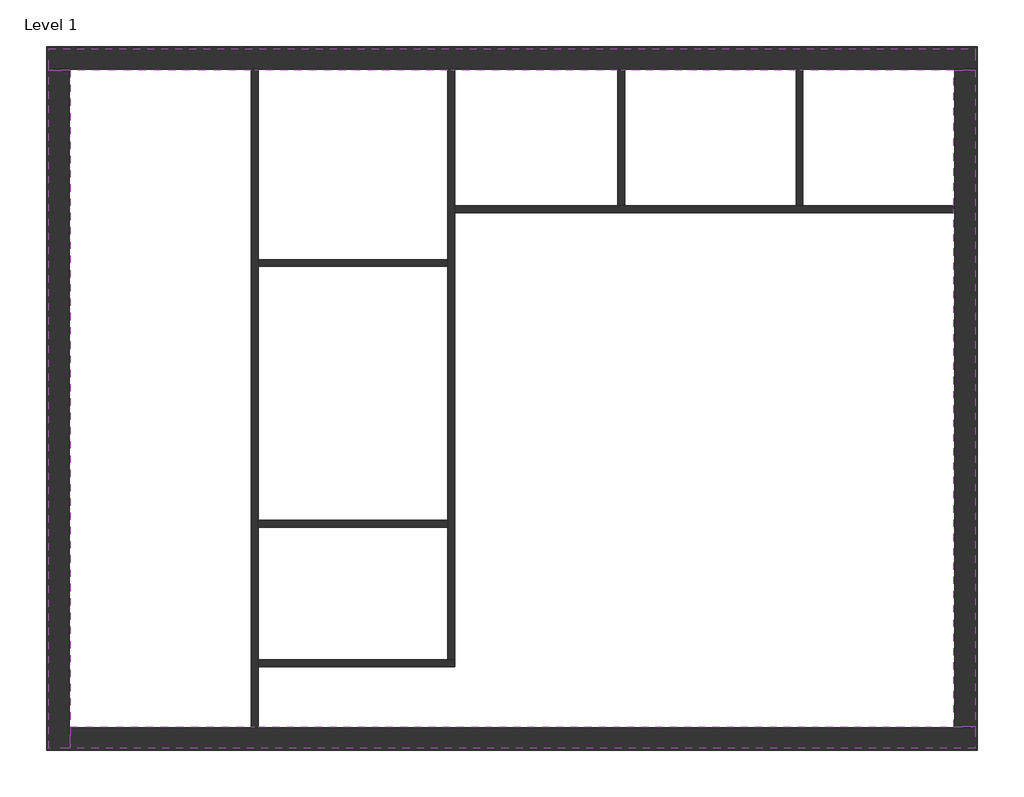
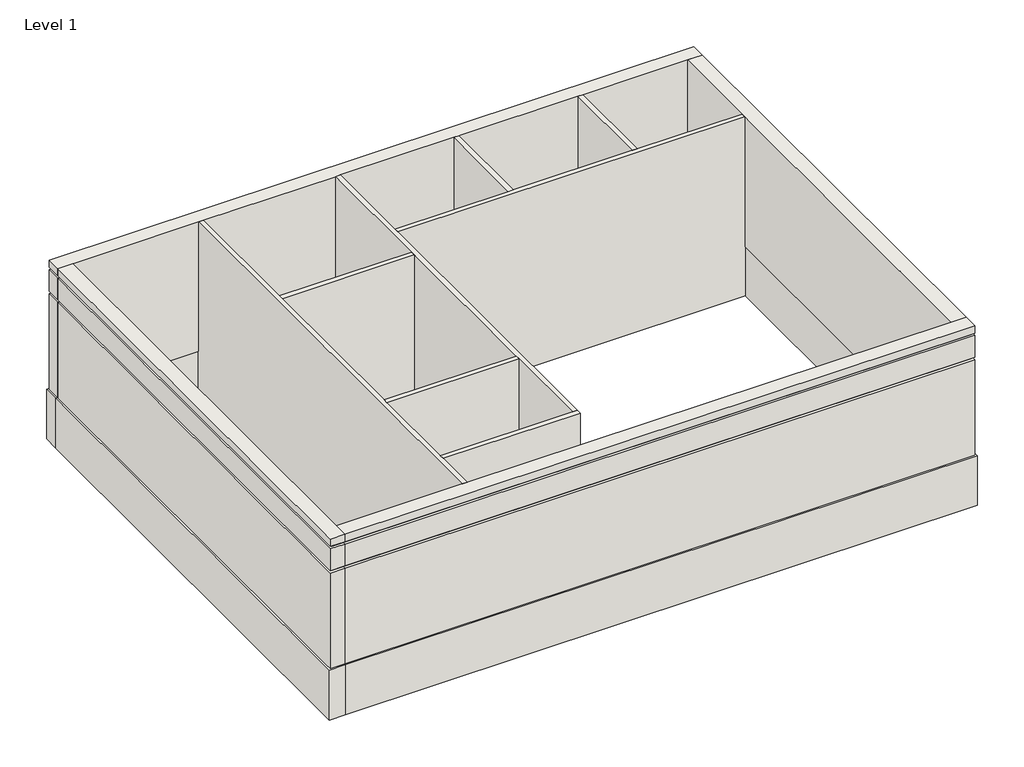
# One storey: 16 walls.
"""IFC4 building model written with IfcOpenShell, lengths in millimetres."""

from ifc_helpers import new_model, si_unit, frame, origin, origin_with_axes, place, context, project, spatial, polyline, outline, extrude, faceted_brep, element, save

model = new_model("IFC4")

# Units and contexts
model_context = context("Model", 3, world=origin())
ifc_project = project(units=[si_unit("LENGTHUNIT", "METRE", prefix="MILLI")], contexts=[model_context])

# Site, building, storey
site = spatial("IfcSite", under=ifc_project)
building = spatial("IfcBuilding", under=site)
storey = spatial("IfcBuildingStorey", under=building, Name="Level 1", Elevation=0.0)

# Walls
placement = place(None, origin())
element("IfcWall", 1, ObjectType="Exterior - Block on Mtl. Stud", at=placement, inside=storey, context=model_context, shape_type="Brep", body=[
    faceted_brep([(-1649.2150684, 3407.407772, 0.0), (-1189.2150684, 3407.407772, 0.0), (2473.5349316, 3407.407772, 0.0), (2612.0349316, 3407.407772, 0.0), (6435.5349316, 3407.407772, 0.0), (6574.0349316, 3407.407772, 0.0), (9857.7849316, 3407.407772, 0.0), (9996.2849316, 3407.407772, 0.0), (13446.5349316, 3407.407772, 0.0), (13585.0349316, 3407.407772, 0.0), (16638.7849316, 3407.407772, 0.0), (17098.7849316, 3407.407772, 0.0), (17098.7849316, 3407.407772, 1524.0), (16638.7849316, 3407.407772, 1524.0), (13585.0349316, 3407.407772, 1524.0), (13446.5349316, 3407.407772, 1524.0), (9996.2849316, 3407.407772, 1524.0), (9857.7849316, 3407.407772, 1524.0), (6574.0349316, 3407.407772, 1524.0), (6435.5349316, 3407.407772, 1524.0), (2612.0349316, 3407.407772, 1524.0), (2473.5349316, 3407.407772, 1524.0), (-1189.2150684, 3407.407772, 1524.0), (-1649.2150684, 3407.407772, 1524.0), (-1649.2150684, 3867.407772, 0.0), (-1649.2150684, 3867.407772, 1524.0), (17098.7849316, 3867.407772, 1524.0), (17098.7849316, 3867.407772, 0.0)], [[[0, 1, 2, 3, 4, 5, 6, 7, 8, 9, 10, 11, 12, 13, 14, 15, 16, 17, 18, 19, 20, 21, 22, 23]], [[24, 25, 26, 27]], [[11, 10, 9, 8, 7, 6, 5, 4, 3, 2, 1, 0, 24, 27]], [[23, 22, 21, 20, 19, 18, 17, 16, 15, 14, 13, 12, 26, 25]], [[0, 23, 25, 24]], [[12, 11, 27, 26]]]),
])
element("IfcWall", 2, ObjectType="Exterior - Block on Mtl. Stud", at=placement, inside=storey, context=model_context, shape_type="Brep", body=[
    faceted_brep([(-1189.2150684, -10308.592228, 0.0), (-1189.2150684, -9848.592228, 0.0), (-1189.2150684, 3407.407772, 0.0), (-1189.2150684, 3407.407772, 1524.0), (-1189.2150684, -9848.592228, 1524.0), (-1189.2150684, -10308.592228, 1524.0), (-1649.2150684, -10308.592228, 0.0), (-1649.2150684, -10308.592228, 1524.0), (-1649.2150684, 3407.407772, 1524.0), (-1649.2150684, 3407.407772, 0.0)], [[[0, 1, 2, 3, 4, 5]], [[6, 7, 8, 9]], [[2, 1, 0, 6, 9]], [[5, 4, 3, 8, 7]], [[0, 5, 7, 6]], [[3, 2, 9, 8]]]),
])
element("IfcWall", 3, ObjectType="Exterior - Block on Mtl. Stud", at=placement, inside=storey, context=model_context, shape_type="Brep", body=[
    faceted_brep([(17098.7849316, -9848.592228, 0.0), (16638.7849316, -9848.592228, 0.0), (2612.0349316, -9848.592228, 0.0), (2473.5349316, -9848.592228, 0.0), (-1189.2150684, -9848.592228, 0.0), (-1189.2150684, -9848.592228, 1524.0), (2473.5349316, -9848.592228, 1524.0), (2612.0349316, -9848.592228, 1524.0), (16638.7849316, -9848.592228, 1524.0), (17098.7849316, -9848.592228, 1524.0), (17098.7849316, -10308.592228, 0.0), (17098.7849316, -10308.592228, 1524.0), (-1189.2150684, -10308.592228, 1524.0), (-1189.2150684, -10308.592228, 0.0)], [[[0, 1, 2, 3, 4, 5, 6, 7, 8, 9]], [[10, 11, 12, 13]], [[4, 3, 2, 1, 0, 10, 13]], [[9, 8, 7, 6, 5, 12, 11]], [[0, 9, 11, 10]], [[5, 4, 13, 12]]]),
])
element("IfcWall", 4, ObjectType="Exterior - Block on Mtl. Stud", at=placement, inside=storey, context=model_context, shape_type="Brep", body=[
    faceted_brep([(16638.7849316, 3407.407772, 0.0), (16638.7849316, 658.657772, 0.0), (16638.7849316, 520.157772, 0.0), (16638.7849316, -9848.592228, 0.0), (16638.7849316, -9848.592228, 1524.0), (16638.7849316, 520.157772, 1524.0), (16638.7849316, 658.657772, 1524.0), (16638.7849316, 3407.407772, 1524.0), (17098.7849316, 3407.407772, 0.0), (17098.7849316, 3407.407772, 1524.0), (17098.7849316, -9848.592228, 1524.0), (17098.7849316, -9848.592228, 0.0)], [[[0, 1, 2, 3, 4, 5, 6, 7]], [[8, 9, 10, 11]], [[3, 2, 1, 0, 8, 11]], [[7, 6, 5, 4, 10, 9]], [[0, 7, 9, 8]], [[4, 3, 11, 10]]]),
])
element("IfcWall", 5, ObjectType="Exterior - Render on Brick on Block", at=placement, inside=storey, context=model_context, shape_type="Brep", body=[
    faceted_brep([(-1600.2150684, 3389.407772, 1524.0), (-1171.2150684, 3389.407772, 1524.0), (2473.5349316, 3389.407772, 1524.0), (2612.0349316, 3389.407772, 1524.0), (6435.5349316, 3389.407772, 1524.0), (6574.0349316, 3389.407772, 1524.0), (9857.7849316, 3389.407772, 1524.0), (9996.2849316, 3389.407772, 1524.0), (13446.5349316, 3389.407772, 1524.0), (13585.0349316, 3389.407772, 1524.0), (16620.7849316, 3389.407772, 1524.0), (17049.7849316, 3389.407772, 1524.0), (17049.7849316, 3389.407772, 4449.0), (16974.7849316, 3389.407772, 4449.0), (16974.7849316, 3389.407772, 4524.0), (17049.7849316, 3389.407772, 4524.0), (17049.7849316, 3389.407772, 5186.0), (16974.7849316, 3389.407772, 5186.0), (16974.7849316, 3389.407772, 5261.0), (17049.7849316, 3389.407772, 5261.0), (17049.7849316, 3389.407772, 5486.0), (16620.7849316, 3389.407772, 5486.0), (13585.0349316, 3389.407772, 5486.0), (13446.5349316, 3389.407772, 5486.0), (9996.2849316, 3389.407772, 5486.0), (9857.7849316, 3389.407772, 5486.0), (6574.0349316, 3389.407772, 5486.0), (6435.5349316, 3389.407772, 5486.0), (2612.0349316, 3389.407772, 5486.0), (2473.5349316, 3389.407772, 5486.0), (-1171.2150684, 3389.407772, 5486.0), (-1600.2150684, 3389.407772, 5486.0), (-1600.2150684, 3389.407772, 5261.0), (-1525.2150684, 3389.407772, 5261.0), (-1525.2150684, 3389.407772, 5186.0), (-1600.2150684, 3389.407772, 5186.0), (-1600.2150684, 3389.407772, 4524.0), (-1525.2150684, 3389.407772, 4524.0), (-1525.2150684, 3389.407772, 4449.0), (-1600.2150684, 3389.407772, 4449.0), (-1600.2150684, 3818.407772, 5486.0), (17049.7849316, 3818.407772, 5486.0), (17049.7849316, 3818.407772, 5261.0), (-1600.2150684, 3818.407772, 5261.0), (17049.7849316, 3818.407772, 1524.0), (-1600.2150684, 3818.407772, 1524.0), (-1600.2150684, 3818.407772, 4449.0), (17049.7849316, 3818.407772, 4449.0), (17049.7849316, 3818.407772, 4524.0), (-1600.2150684, 3818.407772, 4524.0), (-1600.2150684, 3818.407772, 5186.0), (17049.7849316, 3818.407772, 5186.0), (-1600.2150684, 3793.407772, 1524.0), (17049.7849316, 3793.407772, 1524.0), (-1525.2150684, 3743.407772, 4449.0), (-1525.2150684, 3743.407772, 4524.0), (16974.7849316, 3743.407772, 4524.0), (16974.7849316, 3743.407772, 4449.0), (-1525.2150684, 3743.407772, 5261.0), (16974.7849316, 3743.407772, 5261.0), (16974.7849316, 3743.407772, 5186.0), (-1525.2150684, 3743.407772, 5186.0)], [[[0, 1, 2, 3, 4, 5, 6, 7, 8, 9, 10, 11, 12, 13, 14, 15, 16, 17, 18, 19, 20, 21, 22, 23, 24, 25, 26, 27, 28, 29, 30, 31, 32, 33, 34, 35, 36, 37, 38, 39]], [[40, 41, 42, 43]], [[44, 45, 46, 47]], [[48, 49, 50, 51]], [[31, 30, 29, 28, 27, 26, 25, 24, 23, 22, 21, 20, 41, 40]], [[11, 10, 9, 8, 7, 6, 5, 4, 3, 2, 1, 0, 52, 53]], [[54, 55, 56, 57]], [[58, 59, 60, 61]], [[31, 40, 43, 32]], [[52, 0, 39, 46, 45]], [[49, 36, 35, 50]], [[41, 20, 19, 42]], [[11, 53, 44, 47, 12]], [[15, 48, 51, 16]], [[45, 44, 53, 52]], [[56, 55, 37, 36, 49, 48, 15, 14]], [[54, 57, 13, 12, 47, 46, 39, 38]], [[55, 54, 38, 37]], [[57, 56, 14, 13]], [[59, 58, 33, 32, 43, 42, 19, 18]], [[61, 60, 17, 16, 51, 50, 35, 34]], [[58, 61, 34, 33]], [[60, 59, 18, 17]]]),
])
element("IfcWall", 6, ObjectType="Exterior - Render on Brick on Block", at=placement, inside=storey, context=model_context, shape_type="Brep", body=[
    faceted_brep([(-1171.2150684, -10259.592228, 1524.0), (-1171.2150684, -9830.592228, 1524.0), (-1171.2150684, 3389.407772, 1524.0), (-1171.2150684, 3389.407772, 5486.0), (-1171.2150684, -9830.592228, 5486.0), (-1171.2150684, -10259.592228, 5486.0), (-1171.2150684, -10259.592228, 5261.0), (-1171.2150684, -10184.592228, 5261.0), (-1171.2150684, -10184.592228, 5186.0), (-1171.2150684, -10259.592228, 5186.0), (-1171.2150684, -10259.592228, 4524.0), (-1171.2150684, -10184.592228, 4524.0), (-1171.2150684, -10184.592228, 4449.0), (-1171.2150684, -10259.592228, 4449.0), (-1600.2150684, -10259.592228, 5486.0), (-1600.2150684, 3389.407772, 5486.0), (-1600.2150684, 3389.407772, 5261.0), (-1600.2150684, -10259.592228, 5261.0), (-1600.2150684, 3389.407772, 1524.0), (-1600.2150684, -10259.592228, 1524.0), (-1600.2150684, -10259.592228, 4449.0), (-1600.2150684, 3389.407772, 4449.0), (-1600.2150684, 3389.407772, 4524.0), (-1600.2150684, -10259.592228, 4524.0), (-1600.2150684, -10259.592228, 5186.0), (-1600.2150684, 3389.407772, 5186.0), (-1575.2150684, -10259.592228, 1524.0), (-1575.2150684, 3389.407772, 1524.0), (-1525.2150684, -10184.592228, 4449.0), (-1525.2150684, -10184.592228, 4524.0), (-1525.2150684, 3389.407772, 4524.0), (-1525.2150684, 3389.407772, 4449.0), (-1525.2150684, -10184.592228, 5186.0), (-1525.2150684, -10184.592228, 5261.0), (-1525.2150684, 3389.407772, 5261.0), (-1525.2150684, 3389.407772, 5186.0)], [[[0, 1, 2, 3, 4, 5, 6, 7, 8, 9, 10, 11, 12, 13]], [[14, 15, 16, 17]], [[18, 19, 20, 21]], [[22, 23, 24, 25]], [[5, 4, 3, 15, 14]], [[2, 1, 0, 26, 27]], [[28, 29, 30, 31]], [[32, 33, 34, 35]], [[5, 14, 17, 6]], [[26, 0, 13, 20, 19]], [[23, 10, 9, 24]], [[3, 2, 27, 18, 21, 31, 30, 22, 25, 35, 34, 16, 15]], [[19, 18, 27, 26]], [[30, 29, 11, 10, 23, 22]], [[28, 31, 21, 20, 13, 12]], [[29, 28, 12, 11]], [[34, 33, 7, 6, 17, 16]], [[32, 35, 25, 24, 9, 8]], [[33, 32, 8, 7]]]),
])
element("IfcWall", 7, ObjectType="Exterior - Render on Brick on Block", at=placement, inside=storey, context=model_context, shape_type="Brep", body=[
    faceted_brep([(17049.7849316, -9830.592228, 1524.0), (16620.7849316, -9830.592228, 1524.0), (2612.0349316, -9830.592228, 1524.0), (2473.5349316, -9830.592228, 1524.0), (-1171.2150684, -9830.592228, 1524.0), (-1171.2150684, -9830.592228, 5486.0), (2473.5349316, -9830.592228, 5486.0), (2612.0349316, -9830.592228, 5486.0), (16620.7849316, -9830.592228, 5486.0), (17049.7849316, -9830.592228, 5486.0), (17049.7849316, -9830.592228, 5261.0), (16974.7849316, -9830.592228, 5261.0), (16974.7849316, -9830.592228, 5186.0), (17049.7849316, -9830.592228, 5186.0), (17049.7849316, -9830.592228, 4524.0), (16974.7849316, -9830.592228, 4524.0), (16974.7849316, -9830.592228, 4449.0), (17049.7849316, -9830.592228, 4449.0), (17049.7849316, -10259.592228, 5486.0), (-1171.2150684, -10259.592228, 5486.0), (-1171.2150684, -10259.592228, 5261.0), (17049.7849316, -10259.592228, 5261.0), (-1171.2150684, -10259.592228, 1524.0), (17049.7849316, -10259.592228, 1524.0), (17049.7849316, -10259.592228, 4449.0), (-1171.2150684, -10259.592228, 4449.0), (-1171.2150684, -10259.592228, 4524.0), (17049.7849316, -10259.592228, 4524.0), (17049.7849316, -10259.592228, 5186.0), (-1171.2150684, -10259.592228, 5186.0), (17049.7849316, -10234.592228, 1524.0), (-1171.2150684, -10234.592228, 1524.0), (16974.7849316, -10184.592228, 4449.0), (16974.7849316, -10184.592228, 4524.0), (-1171.2150684, -10184.592228, 4524.0), (-1171.2150684, -10184.592228, 4449.0), (16974.7849316, -10184.592228, 5186.0), (16974.7849316, -10184.592228, 5261.0), (-1171.2150684, -10184.592228, 5261.0), (-1171.2150684, -10184.592228, 5186.0)], [[[0, 1, 2, 3, 4, 5, 6, 7, 8, 9, 10, 11, 12, 13, 14, 15, 16, 17]], [[18, 19, 20, 21]], [[22, 23, 24, 25]], [[26, 27, 28, 29]], [[9, 8, 7, 6, 5, 19, 18]], [[4, 3, 2, 1, 0, 30, 31]], [[32, 33, 34, 35]], [[36, 37, 38, 39]], [[9, 18, 21, 10]], [[30, 0, 17, 24, 23]], [[27, 14, 13, 28]], [[5, 4, 31, 22, 25, 35, 34, 26, 29, 39, 38, 20, 19]], [[23, 22, 31, 30]], [[34, 33, 15, 14, 27, 26]], [[32, 35, 25, 24, 17, 16]], [[33, 32, 16, 15]], [[38, 37, 11, 10, 21, 20]], [[36, 39, 29, 28, 13, 12]], [[37, 36, 12, 11]]]),
])
element("IfcWall", 8, ObjectType="Exterior - Render on Brick on Block", at=placement, inside=storey, context=model_context, shape_type="Brep", body=[
    faceted_brep([(16620.7849316, 3389.407772, 1524.0), (16620.7849316, 658.657772, 1524.0), (16620.7849316, 520.157772, 1524.0), (16620.7849316, -9830.592228, 1524.0), (16620.7849316, -9830.592228, 5486.0), (16620.7849316, 520.157772, 5486.0), (16620.7849316, 658.657772, 5486.0), (16620.7849316, 3389.407772, 5486.0), (17049.7849316, 3389.407772, 5486.0), (17049.7849316, -9830.592228, 5486.0), (17049.7849316, -9830.592228, 5261.0), (17049.7849316, 3389.407772, 5261.0), (17049.7849316, -9830.592228, 1524.0), (17049.7849316, 3389.407772, 1524.0), (17049.7849316, 3389.407772, 4449.0), (17049.7849316, -9830.592228, 4449.0), (17049.7849316, -9830.592228, 4524.0), (17049.7849316, 3389.407772, 4524.0), (17049.7849316, 3389.407772, 5186.0), (17049.7849316, -9830.592228, 5186.0), (17024.7849316, 3389.407772, 1524.0), (17024.7849316, -9830.592228, 1524.0), (16974.7849316, -9830.592228, 4449.0), (16974.7849316, 3389.407772, 4449.0), (16974.7849316, 3389.407772, 4524.0), (16974.7849316, -9830.592228, 4524.0), (16974.7849316, -9830.592228, 5186.0), (16974.7849316, 3389.407772, 5186.0), (16974.7849316, 3389.407772, 5261.0), (16974.7849316, -9830.592228, 5261.0)], [[[0, 1, 2, 3, 4, 5, 6, 7]], [[8, 9, 10, 11]], [[12, 13, 14, 15]], [[16, 17, 18, 19]], [[7, 6, 5, 4, 9, 8]], [[3, 2, 1, 0, 20, 21]], [[22, 23, 24, 25]], [[26, 27, 28, 29]], [[0, 7, 8, 11, 28, 27, 18, 17, 24, 23, 14, 13, 20]], [[4, 3, 21, 12, 15, 22, 25, 16, 19, 26, 29, 10, 9]], [[13, 12, 21, 20]], [[25, 24, 17, 16]], [[23, 22, 15, 14]], [[29, 28, 11, 10]], [[27, 26, 19, 18]]]),
])
element("IfcWall", 9, ObjectType="Interior - 138mm Partition (1-hr)", at=placement, inside=storey, context=model_context, shape_type="Brep", body=[
    faceted_brep([(2473.5349316, 3407.407772, 0.0), (2473.5349316, -9848.592228, 0.0), (2473.5349316, -9848.592228, 1524.0), (2473.5349316, -9830.592228, 1524.0), (2473.5349316, -9830.592228, 5486.0), (2473.5349316, 3389.407772, 5486.0), (2473.5349316, 3389.407772, 1524.0), (2473.5349316, 3407.407772, 1524.0), (2612.0349316, 3407.407772, 0.0), (2612.0349316, 3407.407772, 1524.0), (2612.0349316, 3389.407772, 1524.0), (2612.0349316, 3389.407772, 5486.0), (2612.0349316, -422.242228, 5486.0), (2612.0349316, -560.742228, 5486.0), (2612.0349316, -5673.092228, 5486.0), (2612.0349316, -5811.592228, 5486.0), (2612.0349316, -8485.342228, 5486.0), (2612.0349316, -8623.842228, 5486.0), (2612.0349316, -9830.592228, 5486.0), (2612.0349316, -9830.592228, 1524.0), (2612.0349316, -9848.592228, 1524.0), (2612.0349316, -9848.592228, 0.0), (2612.0349316, -8623.842228, 0.0), (2612.0349316, -8485.342228, 0.0), (2612.0349316, -5811.592228, 0.0), (2612.0349316, -5673.092228, 0.0), (2612.0349316, -560.742228, 0.0), (2612.0349316, -422.242228, 0.0)], [[[0, 1, 2, 3, 4, 5, 6, 7]], [[8, 9, 10, 11, 12, 13, 14, 15, 16, 17, 18, 19, 20, 21, 22, 23, 24, 25, 26, 27]], [[1, 0, 8, 27, 26, 25, 24, 23, 22, 21]], [[5, 4, 18, 17, 16, 15, 14, 13, 12, 11]], [[6, 10, 9, 7]], [[0, 7, 9, 8]], [[6, 5, 11, 10]], [[19, 3, 2, 20]], [[2, 1, 21, 20]], [[4, 3, 19, 18]]]),
])
element("IfcWall", 10, ObjectType="Interior - 138mm Partition (1-hr)", at=placement, inside=storey, context=model_context, shape_type="Brep", body=[
    faceted_brep([(2612.0349316, -8623.842228, 0.0), (6574.0349316, -8623.842228, 0.0), (6574.0349316, -8623.842228, 5486.0), (2612.0349316, -8623.842228, 5486.0), (2612.0349316, -8485.342228, 0.0), (2612.0349316, -8485.342228, 5486.0), (6435.5349316, -8485.342228, 5486.0), (6574.0349316, -8485.342228, 5486.0), (6574.0349316, -8485.342228, 0.0), (6435.5349316, -8485.342228, 0.0)], [[[0, 1, 2, 3]], [[4, 5, 6, 7, 8, 9]], [[1, 0, 4, 9, 8]], [[3, 2, 7, 6, 5]], [[0, 3, 5, 4]], [[2, 1, 8, 7]]]),
])
element("IfcWall", 11, ObjectType="Interior - 138mm Partition (1-hr)", at=placement, inside=storey, context=model_context, shape_type="Brep", body=[
    faceted_brep([(6574.0349316, -8485.342228, 0.0), (6574.0349316, 520.157772, 0.0), (6574.0349316, 658.657772, 0.0), (6574.0349316, 3407.407772, 0.0), (6574.0349316, 3407.407772, 1524.0), (6574.0349316, 3389.407772, 1524.0), (6574.0349316, 3389.407772, 5486.0), (6574.0349316, 658.657772, 5486.0), (6574.0349316, 520.157772, 5486.0), (6574.0349316, -8485.342228, 5486.0), (6435.5349316, -8485.342228, 0.0), (6435.5349316, -8485.342228, 5486.0), (6435.5349316, -5811.592228, 5486.0), (6435.5349316, -5673.092228, 5486.0), (6435.5349316, -560.742228, 5486.0), (6435.5349316, -422.242228, 5486.0), (6435.5349316, 3389.407772, 5486.0), (6435.5349316, 3389.407772, 1524.0), (6435.5349316, 3407.407772, 1524.0), (6435.5349316, 3407.407772, 0.0), (6435.5349316, -422.242228, 0.0), (6435.5349316, -560.742228, 0.0), (6435.5349316, -5673.092228, 0.0), (6435.5349316, -5811.592228, 0.0)], [[[0, 1, 2, 3, 4, 5, 6, 7, 8, 9]], [[10, 11, 12, 13, 14, 15, 16, 17, 18, 19, 20, 21, 22, 23]], [[3, 2, 1, 0, 10, 23, 22, 21, 20, 19]], [[9, 8, 7, 6, 16, 15, 14, 13, 12, 11]], [[0, 9, 11, 10]], [[17, 5, 4, 18]], [[4, 3, 19, 18]], [[6, 5, 17, 16]]]),
])
element("IfcWall", 12, ObjectType="Interior - 138mm Partition (1-hr)", at=placement, inside=storey, context=model_context, shape_type="Brep", body=[
    faceted_brep([(16638.7849316, 658.657772, 0.0), (13585.0349316, 658.657772, 0.0), (13446.5349316, 658.657772, 0.0), (9996.2849316, 658.657772, 0.0), (9857.7849316, 658.657772, 0.0), (6574.0349316, 658.657772, 0.0), (6574.0349316, 658.657772, 5486.0), (9857.7849316, 658.657772, 5486.0), (9996.2849316, 658.657772, 5486.0), (13446.5349316, 658.657772, 5486.0), (13585.0349316, 658.657772, 5486.0), (16620.7849316, 658.657772, 5486.0), (16620.7849316, 658.657772, 1524.0), (16638.7849316, 658.657772, 1524.0), (16638.7849316, 520.157772, 0.0), (16638.7849316, 520.157772, 1524.0), (16620.7849316, 520.157772, 1524.0), (16620.7849316, 520.157772, 5486.0), (6574.0349316, 520.157772, 5486.0), (6574.0349316, 520.157772, 0.0)], [[[0, 1, 2, 3, 4, 5, 6, 7, 8, 9, 10, 11, 12, 13]], [[14, 15, 16, 17, 18, 19]], [[5, 4, 3, 2, 1, 0, 14, 19]], [[11, 10, 9, 8, 7, 6, 18, 17]], [[12, 16, 15, 13]], [[0, 13, 15, 14]], [[12, 11, 17, 16]], [[6, 5, 19, 18]]]),
])
element("IfcWall", 13, ObjectType="Interior - 138mm Partition (1-hr)", at=placement, inside=storey, context=model_context, shape_type="SweptSolid", body=[
    extrude(outline(polyline([(6435.5349316, -5811.592228), (2612.0349316, -5811.592228), (2612.0349316, -5673.092228), (6435.5349316, -5673.092228), (6435.5349316, -5811.592228)])), origin_with_axes(), (0.0, 0.0, 1.0), 5486.0),
])
element("IfcWall", 14, ObjectType="Interior - 138mm Partition (1-hr)", at=placement, inside=storey, context=model_context, shape_type="SweptSolid", body=[
    extrude(outline(polyline([(6435.5349316, -560.742228), (2612.0349316, -560.742228), (2612.0349316, -422.242228), (6435.5349316, -422.242228), (6435.5349316, -560.742228)])), origin_with_axes(), (0.0, 0.0, 1.0), 5486.0),
])
element("IfcWall", 15, ObjectType="Interior - 138mm Partition (1-hr)", at=placement, inside=storey, context=model_context, shape_type="SweptSolid", body=[
    extrude(outline(polyline([(658.657772, 0.0), (658.657772, 5486.0), (3389.407772, 5486.0), (3389.407772, 1524.0), (3407.407772, 1524.0), (3407.407772, 0.0), (658.657772, 0.0)])), frame((9857.7849316, 0.0, 0.0), z_axis=(1.0, 0.0, 0.0), x_axis=(0.0, 1.0, 0.0)), (0.0, 0.0, 1.0), 138.5),
])
element("IfcWall", 16, ObjectType="Interior - 138mm Partition (1-hr)", at=placement, inside=storey, context=model_context, shape_type="SweptSolid", body=[
    extrude(outline(polyline([(658.657772, 0.0), (658.657772, 5486.0), (3389.407772, 5486.0), (3389.407772, 1524.0), (3407.407772, 1524.0), (3407.407772, 0.0), (658.657772, 0.0)])), frame((13446.5349316, 0.0, 0.0), z_axis=(1.0, 0.0, 0.0), x_axis=(0.0, 1.0, 0.0)), (0.0, 0.0, 1.0), 138.5),
])

save(model, "model.ifc")
